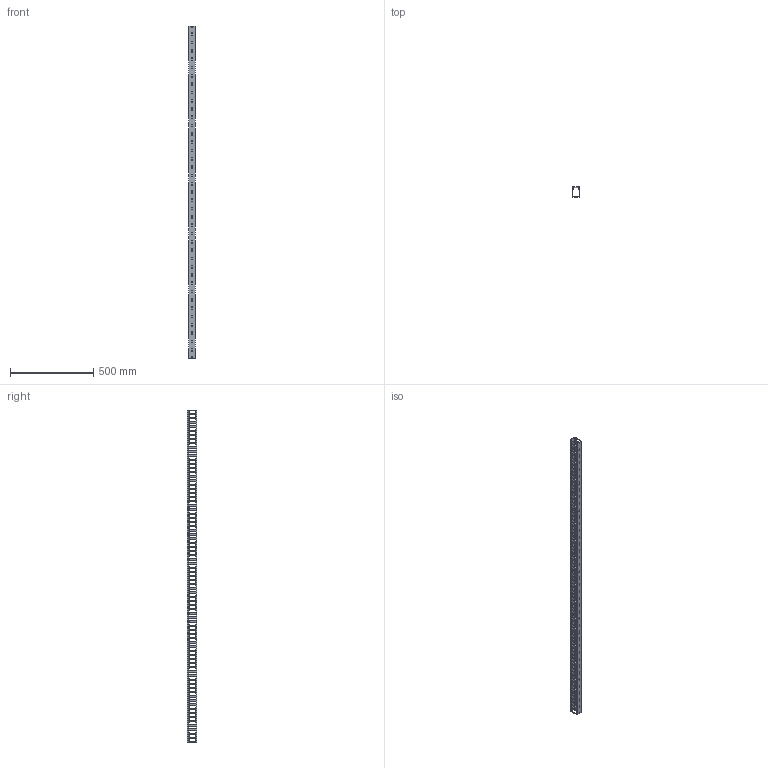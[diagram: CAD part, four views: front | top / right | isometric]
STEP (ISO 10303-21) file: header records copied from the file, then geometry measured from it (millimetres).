
FILE_DESCRIPTION (( 'STEP AP214' ), '1' );
FILE_NAME ('KD-46-20-LL.STEP', '2020-02-06T08:30:09', ( '' ), ( '' ), 'SwSTEP 2.0', 'SolidWorks 2018', '' );
FILE_SCHEMA (( 'AUTOMOTIVE_DESIGN' ));
Length unit declared in the file: millimetre
Products named in the file (3): KD-44-20-cover; KD-46-20-LL; KD-46-20-LL-body
Assembly tree (2 placements, depth 2):
  KD-46-20-LL
    KD-46-20-LL-body
    KD-44-20-cover
Bounding box: 40 x 60.17 x 2000 mm (x, y, z)
Volume: 576690.2 mm3; surface area: 741777 mm2
Topology: 2 solids, 2 shells, 1547 faces, 4629 edges, 3086 vertices
Faces by surface type: cylinder 797, plane 750
Entity records: 53463 total; most frequent: DIRECTION 9327, CARTESIAN_POINT 9267, ORIENTED_EDGE 9258, EDGE_CURVE 4629, AXIS2_PLACEMENT_3D 3146, VERTEX_POINT 3086, VECTOR 3035, LINE 3035
